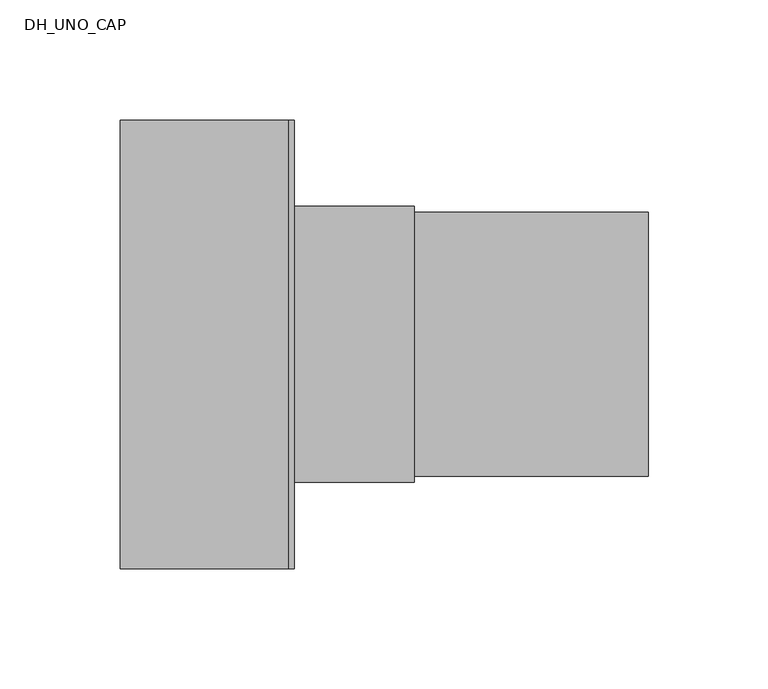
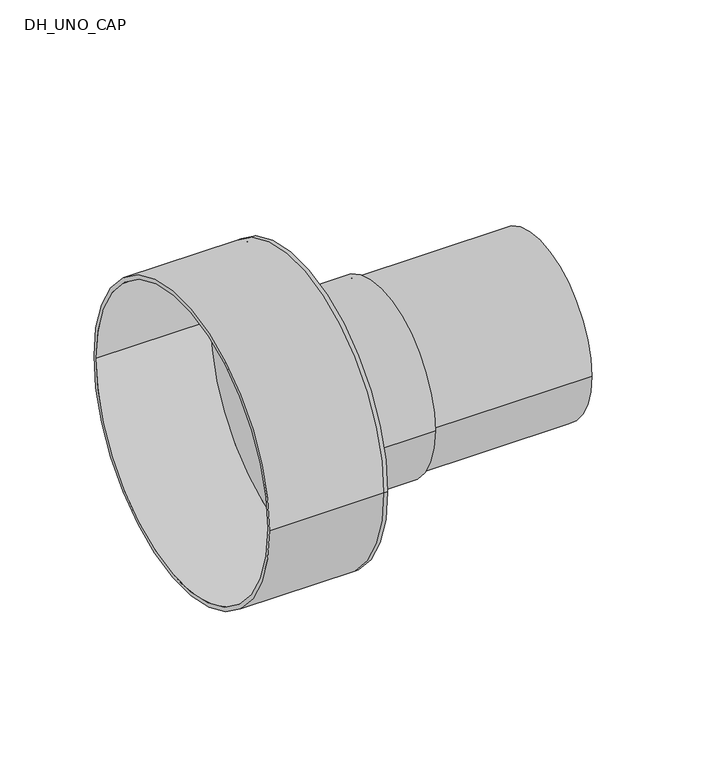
"""IFC4 building model written with IfcOpenShell, lengths in millimetres: pipe fitting geometry, DH_UNO_CAP : RAUTHERMEX UNO + 11 Heating - Rubber Cap."""

from ifc_helpers import new_model, si_unit, point, frame, origin, origin_2d, place, context, project, spatial, polyline, circle_curve, trimmed, segment, composite_curve, outline, extrude, source, transform, mapped, element, save
from ifc_brep_helpers import plane_surface, cylinder_surface, revolved_surface, advanced_brep


def dh_uno_cap_e3f4356c(model_context):
    return source(origin(), model_context, "Body", "SolidModel", [
        extrude(outline(composite_curve([segment(trimmed(circle_curve(origin_2d(), 55.0), [point((-55.0, 0.0))], [point((55.0, 0.0))], False, "CARTESIAN"), True, "CONTINUOUS"), segment(trimmed(circle_curve(origin_2d(), 55.0), [point((55.0, 0.0))], [point((-55.0, 0.0))], False, "CARTESIAN"), True, "CONTINUOUS")], self_intersect=False), holes=[composite_curve([segment(trimmed(circle_curve(origin_2d(), 45.0), [point((-45.0, 0.0))], [point((45.0, 0.0))], True, "CARTESIAN"), True, "CONTINUOUS"), segment(trimmed(circle_curve(origin_2d(), 45.0), [point((45.0, 0.0))], [point((-45.0, 0.0))], True, "CARTESIAN"), True, "CONTINUOUS")], self_intersect=False)]), frame((0.0, 0.0, 0.0), z_axis=(1.0, 0.0, 0.0), x_axis=(0.0, 1.0, 0.0)), (0.0, 0.0, 1.0), 150.0),
        advanced_brep(
        [(-70.0, -93.5, 0.0), (-70.0, 93.5, 0.0), (-70.0, -91.0, 0.0), (-70.0, 91.0, 0.0), (0.0, -91.0, 0.0), (0.0, 91.0, 0.0), (0.0, -93.5, 0.0), (0.0, 93.5, 0.0), (0.0, 55.0, 0.0), (0.0, -55.0, 0.0), (2.5, -93.5, 0.0), (2.5, 93.5, 0.0), (2.5, -55.0, 0.0), (2.5, 55.0, 0.0)],
        [
            (0, 1, circle_curve(frame((-70.0, 0.0, 0.0), z_axis=(-1.0, 0.0, 0.0), x_axis=(0.0, 1.0, 0.0)), 93.5)),
            (1, 0, circle_curve(frame((-70.0, 0.0, 0.0), z_axis=(-1.0, 0.0, 0.0), x_axis=(0.0, 1.0, 0.0)), 93.5)),
            (2, 3, circle_curve(frame((-70.0, 0.0, 0.0), z_axis=(1.0, 0.0, 0.0), x_axis=(0.0, 1.0, 0.0)), 91.0)),
            (3, 2, circle_curve(frame((-70.0, 0.0, 0.0), z_axis=(1.0, 0.0, 0.0), x_axis=(0.0, 1.0, 0.0)), 91.0)),
            (2, 4),
            (4, 5, circle_curve(frame((0.0, 0.0, 0.0), z_axis=(1.0, 0.0, 0.0), x_axis=(0.0, 1.0, 0.0)), 91.0)),
            (5, 3),
            (5, 4, circle_curve(frame((0.0, 0.0, 0.0), z_axis=(1.0, 0.0, 0.0), x_axis=(0.0, 1.0, 0.0)), 91.0)),
            (0, 6),
            (6, 7, circle_curve(frame((0.0, 0.0, 0.0), z_axis=(-1.0, 0.0, 0.0), x_axis=(0.0, 1.0, 0.0)), 93.5)),
            (7, 1),
            (7, 6, circle_curve(frame((0.0, 0.0, 0.0), z_axis=(-1.0, 0.0, 0.0), x_axis=(0.0, 1.0, 0.0)), 93.5)),
            (8, 9, circle_curve(frame((0.0, 0.0, 0.0), z_axis=(1.0, 0.0, 0.0), x_axis=(0.0, 1.0, 0.0)), 55.0)),
            (9, 8, circle_curve(frame((0.0, 0.0, 0.0), z_axis=(1.0, 0.0, 0.0), x_axis=(0.0, 1.0, 0.0)), 55.0)),
            (10, 11, circle_curve(frame((2.5, 0.0, 0.0), z_axis=(1.0, 0.0, 0.0), x_axis=(0.0, 1.0, 0.0)), 93.5)),
            (11, 10, circle_curve(frame((2.5, 0.0, 0.0), z_axis=(1.0, 0.0, 0.0), x_axis=(0.0, 1.0, 0.0)), 93.5)),
            (12, 13, circle_curve(frame((2.5, 0.0, 0.0), z_axis=(-1.0, 0.0, 0.0), x_axis=(0.0, 1.0, 0.0)), 55.0)),
            (13, 12, circle_curve(frame((2.5, 0.0, 0.0), z_axis=(-1.0, 0.0, 0.0), x_axis=(0.0, 1.0, 0.0)), 55.0)),
            (11, 7),
            (6, 10),
            (8, 13),
            (12, 9),
        ],
        [
            plane_surface(frame((-70.0, 0.0, 0.0), z_axis=(-1.0, 0.0, 0.0), x_axis=(0.0, 0.0, 1.0))),
            revolved_surface(polyline([(0.0, 91.0, 0.0), (-70.0, 91.0, 0.0)]), (-70.0, 0.0, 0.0), (1.0, 0.0, 0.0)),
            cylinder_surface(frame((-70.0, 0.0, 0.0), z_axis=(-1.0, 0.0, 0.0), x_axis=(0.0, 1.0, 0.0)), 93.5),
            plane_surface(frame((0.0, 0.0, 0.0), z_axis=(-1.0, 0.0, 0.0), x_axis=(0.0, 0.0, 1.0))),
            plane_surface(frame((2.5, 0.0, 0.0), z_axis=(1.0, 0.0, 0.0), x_axis=(0.0, 0.0, 1.0))),
            cylinder_surface(frame((0.0, 0.0, 0.0), z_axis=(-1.0, 0.0, 0.0), x_axis=(0.0, 1.0, 0.0)), 93.5),
            revolved_surface(polyline([(0.0, 55.0, 0.0), (2.5, 55.0, 0.0)]), (0.0, 0.0, 0.0), (-1.0, 0.0, 0.0)),
        ],
        [
            (0, [[1, 2], [3, 4]]),
            (1, [[-3, 5, 6, 7]]),
            (1, [[-4, -7, 8, -5]]),
            (2, [[-1, 9, 10, 11]]),
            (2, [[-2, -11, 12, -9]]),
            (3, [[-6, -8], [13, 14]]),
            (4, [[15, 16], [17, 18]]),
            (5, [[-16, 19, -10, 20]]),
            (5, [[-15, -20, -12, -19]]),
            (6, [[21, -17, 22, -13]]),
            (6, [[-21, -14, -22, -18]]),
        ],
    ),
        extrude(outline(composite_curve([segment(trimmed(circle_curve(origin_2d(), 57.5), [point((-57.5, 0.0))], [point((57.5, 0.0))], False, "CARTESIAN"), True, "CONTINUOUS"), segment(trimmed(circle_curve(origin_2d(), 57.5), [point((57.5, 0.0))], [point((-57.5, 0.0))], False, "CARTESIAN"), True, "CONTINUOUS")], self_intersect=False), holes=[composite_curve([segment(trimmed(circle_curve(origin_2d(), 55.0), [point((-55.0, 0.0))], [point((55.0, 0.0))], True, "CARTESIAN"), True, "CONTINUOUS"), segment(trimmed(circle_curve(origin_2d(), 55.0), [point((55.0, 0.0))], [point((-55.0, 0.0))], True, "CARTESIAN"), True, "CONTINUOUS")], self_intersect=False)]), frame((2.5, 0.0, 0.0), z_axis=(1.0, 0.0, 0.0), x_axis=(0.0, 1.0, 0.0)), (0.0, 0.0, 1.0), 50.0),
    ])


if __name__ == "__main__":
    model = new_model("IFC4")
    model_context = context("Model", 3, world=origin())
    ifc_project = project(units=[si_unit("LENGTHUNIT", "METRE", prefix="MILLI")], contexts=[model_context])
    site = spatial("IfcSite", under=ifc_project)
    building = spatial("IfcBuilding", under=site)
    placement = place(None, origin())
    dh_uno_cap_shape = dh_uno_cap_e3f4356c(model_context)
    element("IfcPipeFitting", 1, ObjectType="DH_UNO_CAP : RAUTHERMEX UNO + 11 Heating - Rubber Cap", at=placement, inside=building, context=model_context, shape_type="MappedRepresentation", body=[
        mapped(dh_uno_cap_shape, transform((0.0, 0.0, 0.0), x_axis=(1.0, 0.0, 0.0), y_axis=(0.0, 1.0, 0.0), z_axis=(0.0, 0.0, 1.0))),
    ])
    save(model, "model.ifc")
